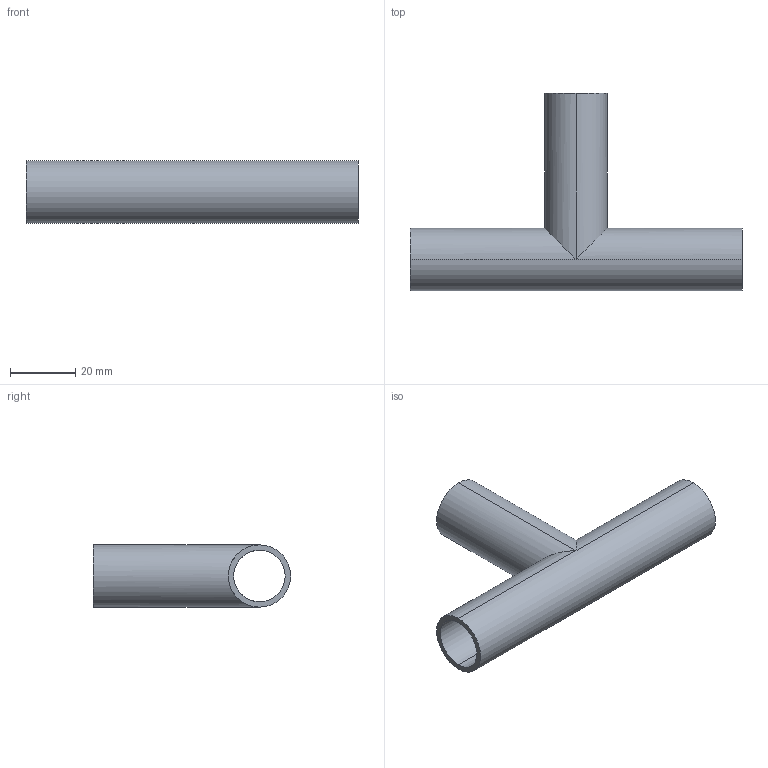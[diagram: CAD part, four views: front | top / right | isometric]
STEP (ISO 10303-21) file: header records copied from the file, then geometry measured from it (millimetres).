
FILE_DESCRIPTION (( 'STEP AP214' ), '1' );
FILE_NAME ('TE7WWW6L.75-...STEP', '2016-05-23T06:17:00', ( 'eran' ), ( '' ), 'SwSTEP 2.0', 'SolidWorks 2016', '' );
FILE_SCHEMA (( 'AUTOMOTIVE_DESIGN' ));
Length unit declared in the file: millimetre
Products named in the file (1): TE7WWW6L.75-..
Bounding box: 101.6 x 60.33 x 19.05 mm (x, y, z)
Volume: 12743.6 mm3; surface area: 15710.2 mm2
Topology: 1 solids, 1 shells, 13 faces, 28 edges, 16 vertices
Faces by surface type: cylinder 10, plane 3
Entity records: 392 total; most frequent: CARTESIAN_POINT 70, DIRECTION 64, ORIENTED_EDGE 56, EDGE_CURVE 28, AXIS2_PLACEMENT_3D 26, VERTEX_POINT 16, EDGE_LOOP 16, ADVANCED_FACE 13
